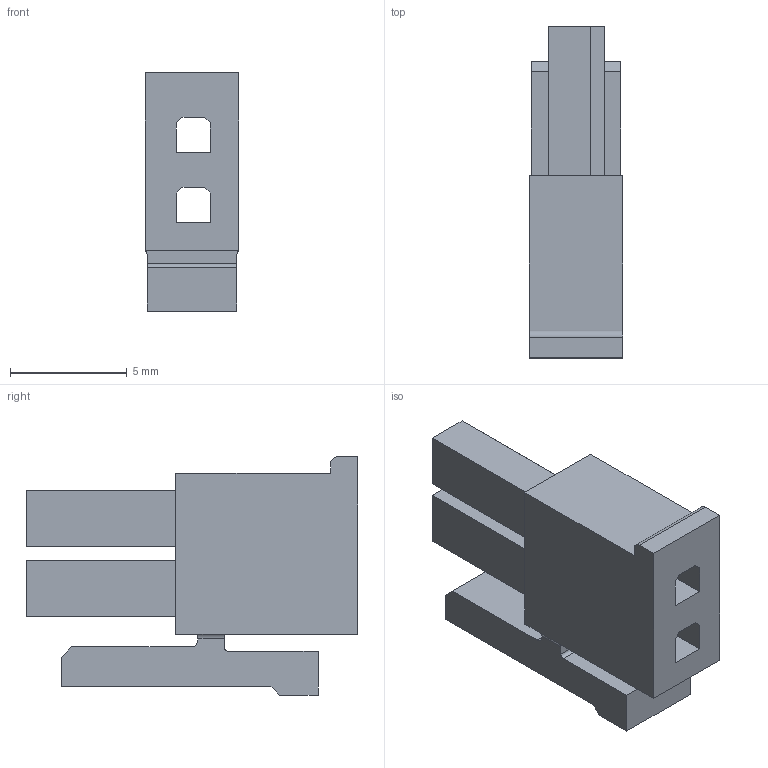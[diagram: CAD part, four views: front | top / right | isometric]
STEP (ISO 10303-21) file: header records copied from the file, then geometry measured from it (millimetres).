
FILE_DESCRIPTION (( 'STEP AP214' ), '1' );
FILE_NAME ('4976-2X01MHB.STEP', '2017-05-03T02:27:31', ( 'RD05' ), ( '' ), 'SwSTEP 2.0', 'SolidWorks 2011', '' );
FILE_SCHEMA (( 'AUTOMOTIVE_DESIGN' ));
Length unit declared in the file: millimetre
Products named in the file (2): 4976-2X01-H; 4976-2X01MHB
Assembly tree (1 placements, depth 2):
  4976-2X01MHB
    4976-2X01-H
Bounding box: 4 x 14.2 x 10.2 mm (x, y, z)
Volume: 303.9 mm3; surface area: 635.9 mm2
Topology: 1 solids, 1 shells, 49 faces, 131 edges, 86 vertices
Faces by surface type: plane 44, cylinder 5
Entity records: 1577 total; most frequent: CARTESIAN_POINT 270, ORIENTED_EDGE 262, DIRECTION 247, EDGE_CURVE 131, LINE 121, VECTOR 121, VERTEX_POINT 86, AXIS2_PLACEMENT_3D 63
